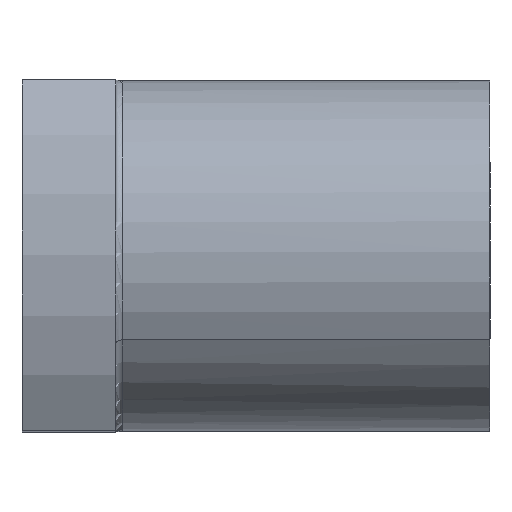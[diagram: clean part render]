
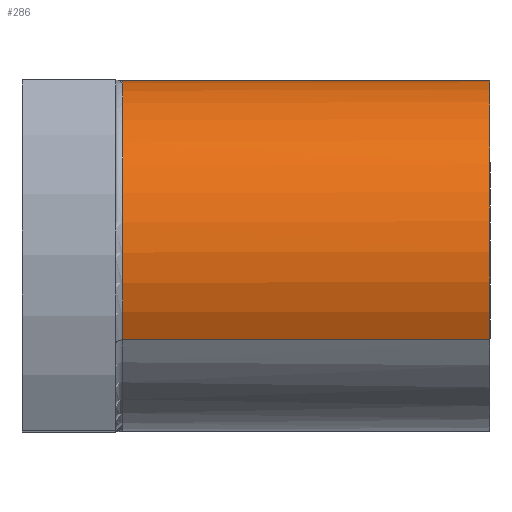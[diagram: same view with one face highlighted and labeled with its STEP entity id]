
A CAD part, top view. The second image highlights one B-rep face of the part: STEP entity #286.
In plain terms, the highlighted cylindrical face has radius 7.5 mm (diameter 15 mm), a partial arc.
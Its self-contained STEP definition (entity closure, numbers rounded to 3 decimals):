
#143=CARTESIAN_POINT('Axis2P3D Location',(20.,0.,0.)) ;
#147=CARTESIAN_POINT('Vertex',(20.,3.596,-6.582)) ;
#149=CARTESIAN_POINT('Vertex',(20.,-3.596,6.582)) ;
#246=CARTESIAN_POINT('Axis2P3D Location',(35.325,0.,0.)) ;
#251=CARTESIAN_POINT('Axis2P3D Location',(4.3,0.,0.)) ;
#255=CARTESIAN_POINT('Vertex',(4.3,-3.596,6.582)) ;
#257=CARTESIAN_POINT('Vertex',(4.3,7.5,0.)) ;
#260=CARTESIAN_POINT('Line Origine',(35.325,-3.596,6.582)) ;
#265=CARTESIAN_POINT('Line Origine',(35.325,3.596,-6.582)) ;
#269=CARTESIAN_POINT('Vertex',(4.3,3.596,-6.582)) ;
#273=CARTESIAN_POINT('Control Point',(4.3,3.596,-6.582)) ;
#274=CARTESIAN_POINT('Control Point',(4.3,5.358,-5.619)) ;
#275=CARTESIAN_POINT('Control Point',(4.3,6.78,-4.022)) ;
#276=CARTESIAN_POINT('Control Point',(4.3,7.5,-2.008)) ;
#277=CARTESIAN_POINT('Control Point',(4.3,7.5,0.)) ;
#144=DIRECTION('Axis2P3D Direction',(1.,0.,0.)) ;
#247=DIRECTION('Axis2P3D Direction',(1.,0.,0.)) ;
#248=DIRECTION('Axis2P3D XDirection',(0.,0.479,-0.878)) ;
#252=DIRECTION('Axis2P3D Direction',(1.,0.,0.)) ;
#261=DIRECTION('Vector Direction',(1.,0.,0.)) ;
#266=DIRECTION('Vector Direction',(1.,0.,0.)) ;
#145=AXIS2_PLACEMENT_3D('Circle Axis2P3D',#143,#144,$) ;
#249=AXIS2_PLACEMENT_3D('Cylinder Axis2P3D',#246,#247,#248) ;
#253=AXIS2_PLACEMENT_3D('Circle Axis2P3D',#251,#252,$) ;
#280=ORIENTED_EDGE('',*,*,#259,.F.) ;
#281=ORIENTED_EDGE('',*,*,#264,.F.) ;
#282=ORIENTED_EDGE('',*,*,#151,.F.) ;
#283=ORIENTED_EDGE('',*,*,#271,.T.) ;
#284=ORIENTED_EDGE('',*,*,#278,.F.) ;
#262=VECTOR('Line Direction',#261,1.) ;
#267=VECTOR('Line Direction',#266,1.) ;
#286=ADVANCED_FACE('ASM8020',(#285),#250,.T.) ;
#272=B_SPLINE_CURVE_WITH_KNOTS('',4,(#273,#274,#275,#276,#277),.UNSPECIFIED.,.F.,.U.,(5,5),(-4.015,4.015),.UNSPECIFIED.) ;
#146=CIRCLE('generated circle',#145,7.5) ;
#254=CIRCLE('generated circle',#253,7.5) ;
#250=CYLINDRICAL_SURFACE('generated cylinder',#249,7.5) ;
#151=EDGE_CURVE('',#148,#150,#146,.T.) ;
#259=EDGE_CURVE('',#256,#258,#254,.F.) ;
#264=EDGE_CURVE('',#150,#256,#263,.F.) ;
#271=EDGE_CURVE('',#148,#270,#268,.F.) ;
#278=EDGE_CURVE('',#258,#270,#272,.F.) ;
#279=EDGE_LOOP('',(#280,#281,#282,#283,#284)) ;
#285=FACE_OUTER_BOUND('',#279,.T.) ;
#263=LINE('Line',#260,#262) ;
#268=LINE('Line',#265,#267) ;
#148=VERTEX_POINT('',#147) ;
#150=VERTEX_POINT('',#149) ;
#256=VERTEX_POINT('',#255) ;
#258=VERTEX_POINT('',#257) ;
#270=VERTEX_POINT('',#269) ;
